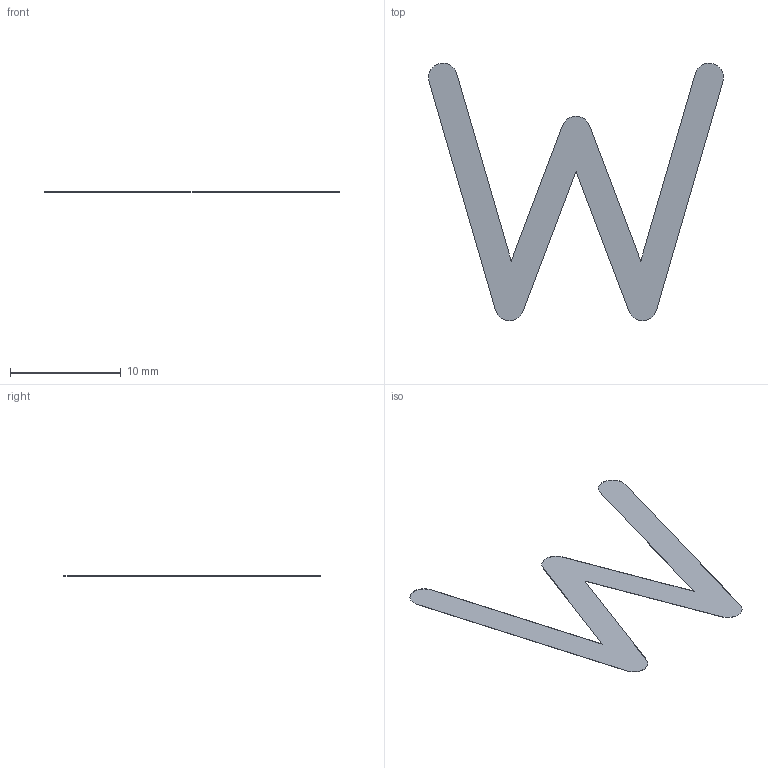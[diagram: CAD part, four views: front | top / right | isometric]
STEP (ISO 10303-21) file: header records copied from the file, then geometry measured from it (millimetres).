
FILE_DESCRIPTION(('Open CASCADE Model'),'2;1');
FILE_NAME('Open CASCADE Shape Model','2026-09-06T11:30:36',('Author'),( 'Open CASCADE'),'Open CASCADE STEP processor 7.7','Open CASCADE 7.7' ,'Unknown');
FILE_SCHEMA(('AUTOMOTIVE_DESIGN { 1 0 10303 214 1 1 1 1 }'));
Length unit declared in the file: millimetre
Products named in the file (1): Open CASCADE STEP translator 7.7 8
Bounding box: 26.59 x 23.24 x 0.02 mm (x, y, z)
Volume: 3.9 mm3; surface area: 396.7 mm2
Topology: 1 solids, 1 shells, 15 faces, 39 edges, 26 vertices
Faces by surface type: plane 10, cylinder 5
Entity records: 1007 total; most frequent: CARTESIAN_POINT 213, DIRECTION 150, LINE 97, VECTOR 97, ORIENTED_EDGE 78, PCURVE 78, DEFINITIONAL_REPRESENTATION 78, EDGE_CURVE 39
